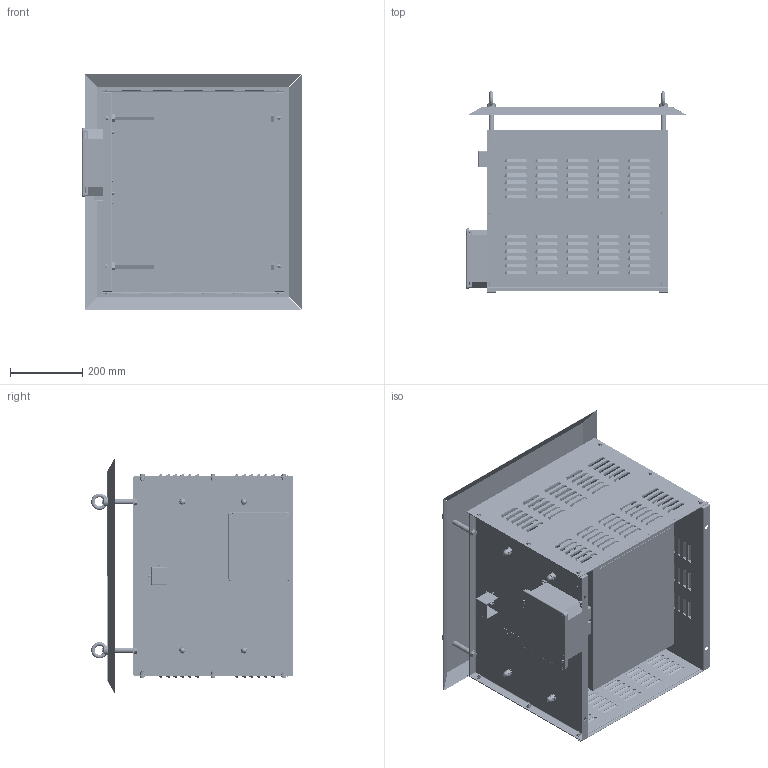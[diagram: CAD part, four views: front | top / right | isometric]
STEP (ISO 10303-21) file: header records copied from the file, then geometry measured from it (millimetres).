
FILE_DESCRIPTION(/* description */ (''),/* implementation_level */ '2;1');
FILE_NAME(/* name */ 'C:\_Vault\Dati\CATALOGO\RX\RX Catalogue New\RX 50S UL\RX 50s RMS 10 (A)- UL_Armatura_Esterna.stp',/* time_stamp */ '2022-03-23T08:44:55+01:00',/* author */ ('claudio'),/* organization */ ('Fairfild Srl'),/* preprocessor_version */ 'ST-DEVELOPER v18.1',/* originating_system */ 'Autodesk Inventor 2022',/* authorisation */ '');
FILE_SCHEMA (('AUTOMOTIVE_DESIGN { 1 0 10303 214 3 1 1 }'));
Products named in the file (1): RX 50s RMS 10 (A)- UL_Armatura_Esterna
Bounding box: 606.9 x 556.42 x 650 mm (x, y, z)
Volume: 33586743.8 mm3; surface area: 4171974 mm2
Topology: 1 solids, 56 shells, 9942 faces, 25930 edges, 16075 vertices
Faces by surface type: plane 6548, cylinder 1685, bspline 1157, cone 503, sphere 31, torus 18
Full cylindrical faces by diameter (mm): 1.9 x2, 3.242 x1, 4 x1, 4.2 x6, 4.3 x1, 4.5 x3, 5 x8, 5.3 x4, 5.5 x4, 6 x36, 6.4 x24, 8.2 x1, 8.376 x8, 9 x4, 10 x10, 10.5 x4, 11 x20, 12.5 x24, 14.5 x1, 15 x8, 16 x9, 21 x12, 25 x4
Entity records: 326362 total; most frequent: CARTESIAN_POINT 75967, ORIENTED_EDGE 51776, DIRECTION 45595, EDGE_CURVE 25888, LINE 19073, VECTOR 19073, VERTEX_POINT 16075, AXIS2_PLACEMENT_3D 13261
